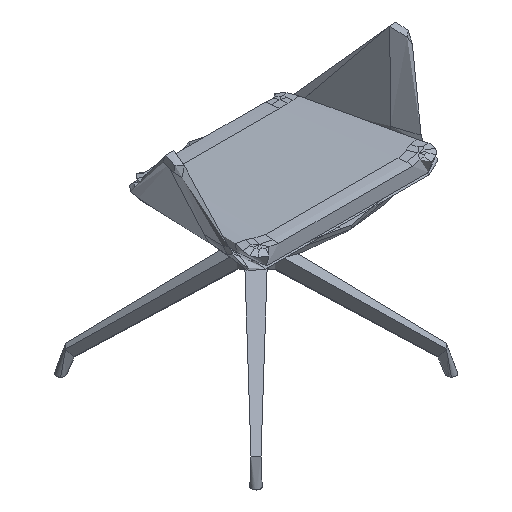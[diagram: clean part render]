
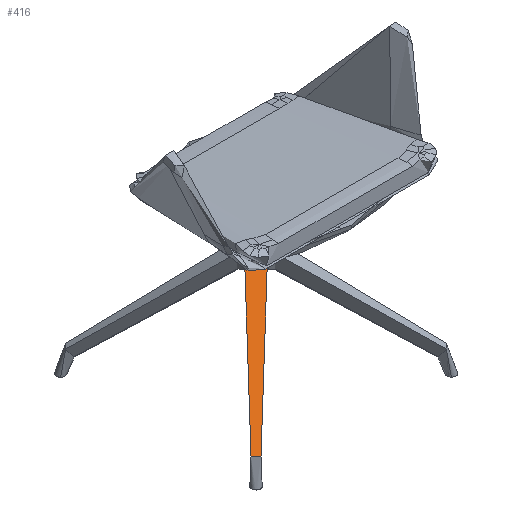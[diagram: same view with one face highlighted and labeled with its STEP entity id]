
A CAD part, isometric view. The second image highlights one B-rep face of the part: STEP entity #416.
In plain terms, the highlighted free-form (B-spline) face has degree [2, 1] with [3, 2] control points.
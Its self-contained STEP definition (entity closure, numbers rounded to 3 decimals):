
#92=(
BOUNDED_CURVE()
B_SPLINE_CURVE(2,(#27073,#27074,#27075),.UNSPECIFIED.,.F.,.F.)
B_SPLINE_CURVE_WITH_KNOTS((3,3),(91.538,481.362),
 .UNSPECIFIED.)
CURVE()
GEOMETRIC_REPRESENTATION_ITEM()
RATIONAL_B_SPLINE_CURVE((1.,0.861,1.))
REPRESENTATION_ITEM('')
);
#185=(
BOUNDED_SURFACE()
B_SPLINE_SURFACE(2,1,((#22688,#22689),(#22690,#22691),(#22692,#22693)),
 .UNSPECIFIED.,.F.,.F.,.F.)
B_SPLINE_SURFACE_WITH_KNOTS((3,3),(2,2),(0.,572.9),(66.217,
469.419),.UNSPECIFIED.)
GEOMETRIC_REPRESENTATION_ITEM()
RATIONAL_B_SPLINE_SURFACE(((1.,1.),(0.707,0.707),
(1.,1.)))
REPRESENTATION_ITEM('')
SURFACE()
);
#416=ADVANCED_FACE('',(#629),#185,.T.);
#629=FACE_OUTER_BOUND('',#842,.T.);
#842=EDGE_LOOP('',(#1715,#1716,#1717,#1718));
#1715=ORIENTED_EDGE('',*,*,#2376,.F.);
#1716=ORIENTED_EDGE('',*,*,#2362,.T.);
#1717=ORIENTED_EDGE('',*,*,#2374,.T.);
#1718=ORIENTED_EDGE('',*,*,#2372,.T.);
#2362=EDGE_CURVE('',#3152,#3153,#2826,.T.);
#2372=EDGE_CURVE('',#3159,#3158,#92,.T.);
#2374=EDGE_CURVE('',#3153,#3159,#2831,.T.);
#2376=EDGE_CURVE('',#3152,#3158,#2833,.T.);
#2826=B_SPLINE_CURVE_WITH_KNOTS('',3,(#27006,#27007,#27008,#27009,#27010,
#27011,#27012,#27013,#27014,#27015,#27016,#27017,#27018,#27019,#27020,#27021,
#27022,#27023,#27024,#27025,#27026,#27027,#27028,#27029,#27030),
 .UNSPECIFIED.,.F.,.F.,(4,1,1,1,2,2,2,1,1,1,2,2,2,1,1,1,4),(-52.559,
-45.022,-42.939,-40.857,-38.774,
-34.61,-30.445,-28.362,-26.28,
-24.197,-22.115,-17.95,-13.785,
-11.702,-9.62,-7.537,0.),.UNSPECIFIED.);
#2831=B_SPLINE_CURVE_WITH_KNOTS('',3,(#27079,#27080,#27081,#27082,#27083,
#27084,#27085,#27086,#27087,#27088,#27089,#27090,#27091,#27092,#27093,#27094,
#27095,#27096,#27097,#27098,#27099,#27100,#27101,#27102),.UNSPECIFIED.,
 .F.,.F.,(4,2,2,2,2,2,2,2,2,2,2,4),(-374.879,-281.16,
-187.44,-140.58,-93.72,-70.29,
-46.86,-35.145,-23.43,-17.572,
-11.715,-10.019),.UNSPECIFIED.);
#2833=B_SPLINE_CURVE_WITH_KNOTS('',3,(#27111,#27112,#27113,#27114,#27115,
#27116,#27117,#27118,#27119,#27120,#27121,#27122,#27123,#27124,#27125,#27126,
#27127,#27128,#27129,#27130,#27131,#27132,#27133,#27134),.UNSPECIFIED.,
 .F.,.F.,(4,2,2,2,2,2,2,2,2,2,2,4),(-374.879,-281.16,
-187.44,-140.58,-93.72,-70.29,
-46.86,-35.145,-23.43,-17.572,
-11.715,-10.019),.UNSPECIFIED.);
#3152=VERTEX_POINT('',#26482);
#3153=VERTEX_POINT('',#26483);
#3158=VERTEX_POINT('',#26488);
#3159=VERTEX_POINT('',#26489);
#22688=CARTESIAN_POINT('',(0.,-40.,276.011));
#22689=CARTESIAN_POINT('',(0.,-364.719,40.681));
#22690=CARTESIAN_POINT('',(-40.,-40.,276.011));
#22691=CARTESIAN_POINT('',(-364.719,-364.719,40.681));
#22692=CARTESIAN_POINT('',(-40.,0.,276.011));
#22693=CARTESIAN_POINT('',(-364.719,0.,40.681));
#26482=CARTESIAN_POINT('',(-245.446,-232.965,59.753));
#26483=CARTESIAN_POINT('',(-232.965,-245.446,59.753));
#26488=CARTESIAN_POINT('',(-38.747,-9.934,276.011));
#26489=CARTESIAN_POINT('',(-9.934,-38.747,276.011));
#27006=CARTESIAN_POINT('',(-245.446,-232.965,59.753));
#27007=CARTESIAN_POINT('',(-247.059,-234.512,58.133));
#27008=CARTESIAN_POINT('',(-249.072,-236.465,56.101));
#27009=CARTESIAN_POINT('',(-251.65,-238.893,53.534));
#27010=CARTESIAN_POINT('',(-252.692,-240.045,52.412));
#27011=CARTESIAN_POINT('',(-253.261,-241.012,51.63));
#27012=CARTESIAN_POINT('',(-253.971,-242.507,50.51));
#27013=CARTESIAN_POINT('',(-254.274,-243.622,49.794));
#27014=CARTESIAN_POINT('',(-254.423,-245.974,48.534));
#27015=CARTESIAN_POINT('',(-254.267,-247.217,47.989));
#27016=CARTESIAN_POINT('',(-253.614,-249.025,47.411));
#27017=CARTESIAN_POINT('',(-253.041,-250.206,47.106));
#27018=CARTESIAN_POINT('',(-251.783,-251.783,46.947));
#27019=CARTESIAN_POINT('',(-250.206,-253.041,47.106));
#27020=CARTESIAN_POINT('',(-249.025,-253.614,47.411));
#27021=CARTESIAN_POINT('',(-247.217,-254.267,47.989));
#27022=CARTESIAN_POINT('',(-245.974,-254.423,48.534));
#27023=CARTESIAN_POINT('',(-243.622,-254.274,49.794));
#27024=CARTESIAN_POINT('',(-242.507,-253.971,50.51));
#27025=CARTESIAN_POINT('',(-241.012,-253.261,51.63));
#27026=CARTESIAN_POINT('',(-240.045,-252.692,52.412));
#27027=CARTESIAN_POINT('',(-238.893,-251.65,53.534));
#27028=CARTESIAN_POINT('',(-236.465,-249.072,56.101));
#27029=CARTESIAN_POINT('',(-234.512,-247.059,58.133));
#27030=CARTESIAN_POINT('',(-232.965,-245.446,59.753));
#27073=CARTESIAN_POINT('',(-9.934,-38.747,276.011));
#27074=CARTESIAN_POINT('',(-32.867,-32.867,276.011));
#27075=CARTESIAN_POINT('',(-38.747,-9.934,276.011));
#27079=CARTESIAN_POINT('',(-232.965,-245.446,59.753));
#27080=CARTESIAN_POINT('',(-214.961,-226.73,78.573));
#27081=CARTESIAN_POINT('',(-196.78,-208.188,97.392));
#27082=CARTESIAN_POINT('',(-160.124,-171.381,135.021));
#27083=CARTESIAN_POINT('',(-141.688,-153.084,153.834));
#27084=CARTESIAN_POINT('',(-113.878,-125.781,182.036));
#27085=CARTESIAN_POINT('',(-104.581,-116.704,191.434));
#27086=CARTESIAN_POINT('',(-85.934,-98.593,210.218));
#27087=CARTESIAN_POINT('',(-76.59,-89.556,219.606));
#27088=CARTESIAN_POINT('',(-62.499,-76.049,233.664));
#27089=CARTESIAN_POINT('',(-57.81,-71.537,238.348));
#27090=CARTESIAN_POINT('',(-48.275,-62.65,247.684));
#27091=CARTESIAN_POINT('',(-43.434,-58.266,252.347));
#27092=CARTESIAN_POINT('',(-35.727,-52.103,259.221));
#27093=CARTESIAN_POINT('',(-33.076,-50.122,261.49));
#27094=CARTESIAN_POINT('',(-27.524,-46.4,265.915));
#27095=CARTESIAN_POINT('',(-24.621,-44.655,268.076));
#27096=CARTESIAN_POINT('',(-19.972,-42.321,271.093));
#27097=CARTESIAN_POINT('',(-18.372,-41.594,272.062));
#27098=CARTESIAN_POINT('',(-15.046,-40.269,273.863));
#27099=CARTESIAN_POINT('',(-13.317,-39.67,274.696));
#27100=CARTESIAN_POINT('',(-10.997,-39.016,275.626));
#27101=CARTESIAN_POINT('',(-10.468,-38.877,275.823));
#27102=CARTESIAN_POINT('',(-9.934,-38.747,276.011));
#27111=CARTESIAN_POINT('',(-245.446,-232.965,59.753));
#27112=CARTESIAN_POINT('',(-226.73,-214.961,78.573));
#27113=CARTESIAN_POINT('',(-208.188,-196.78,97.392));
#27114=CARTESIAN_POINT('',(-171.381,-160.124,135.021));
#27115=CARTESIAN_POINT('',(-153.084,-141.688,153.834));
#27116=CARTESIAN_POINT('',(-125.781,-113.878,182.036));
#27117=CARTESIAN_POINT('',(-116.704,-104.581,191.434));
#27118=CARTESIAN_POINT('',(-98.593,-85.934,210.218));
#27119=CARTESIAN_POINT('',(-89.556,-76.59,219.606));
#27120=CARTESIAN_POINT('',(-76.049,-62.499,233.664));
#27121=CARTESIAN_POINT('',(-71.537,-57.81,238.348));
#27122=CARTESIAN_POINT('',(-62.65,-48.275,247.684));
#27123=CARTESIAN_POINT('',(-58.266,-43.434,252.347));
#27124=CARTESIAN_POINT('',(-52.103,-35.727,259.221));
#27125=CARTESIAN_POINT('',(-50.122,-33.076,261.49));
#27126=CARTESIAN_POINT('',(-46.4,-27.524,265.915));
#27127=CARTESIAN_POINT('',(-44.655,-24.621,268.076));
#27128=CARTESIAN_POINT('',(-42.321,-19.972,271.093));
#27129=CARTESIAN_POINT('',(-41.594,-18.372,272.062));
#27130=CARTESIAN_POINT('',(-40.269,-15.046,273.863));
#27131=CARTESIAN_POINT('',(-39.67,-13.317,274.696));
#27132=CARTESIAN_POINT('',(-39.016,-10.997,275.626));
#27133=CARTESIAN_POINT('',(-38.877,-10.468,275.823));
#27134=CARTESIAN_POINT('',(-38.747,-9.934,276.011));
